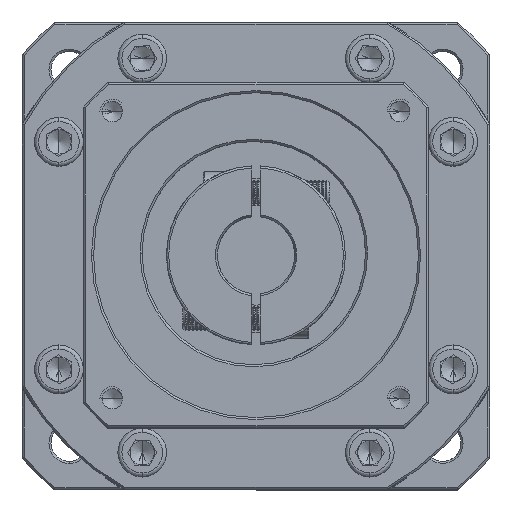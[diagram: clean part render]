
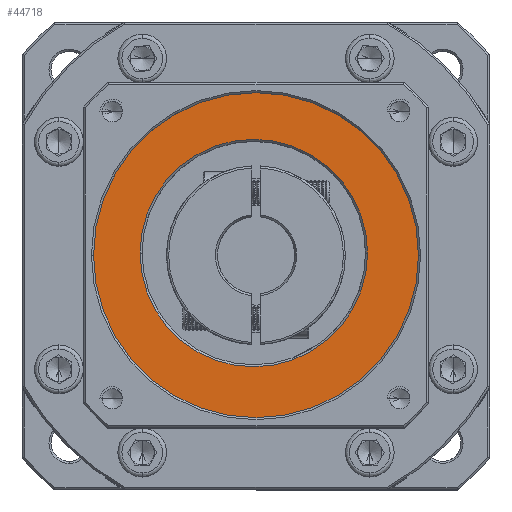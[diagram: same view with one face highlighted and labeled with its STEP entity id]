
A CAD part, top view. The second image highlights one B-rep face of the part: STEP entity #44718.
In plain terms, the highlighted planar face has unit normal (0, 0, 1).
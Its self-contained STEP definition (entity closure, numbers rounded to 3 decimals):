
#2791 = CARTESIAN_POINT ( 'NONE',  ( -84.567, 38.142, 25.809 ) ) ;
#4740 = PLANE ( 'NONE',  #44044 ) ;
#6431 = EDGE_CURVE ( 'NONE', #20829, #110707, #108362, .T. ) ;
#8061 = CARTESIAN_POINT ( 'NONE',  ( -56.567, 38.142, 25.809 ) ) ;
#10621 = ORIENTED_EDGE ( 'NONE', *, *, #6431, .T. ) ;
#10857 = CARTESIAN_POINT ( 'NONE',  ( -84.026, 37.608, 25.809 ) ) ;
#10901 = CARTESIAN_POINT ( 'NONE',  ( -112.567, 38.142, 25.809 ) ) ;
#11102 = EDGE_LOOP ( 'NONE', ( #54437, #51127 ) ) ;
#11721 = DIRECTION ( 'NONE',  ( 1., 0., 0. ) ) ;
#12253 = VERTEX_POINT ( 'NONE', #50307 ) ;
#13735 = AXIS2_PLACEMENT_3D ( 'NONE', #83500, #30104, #92414 ) ;
#19850 = DIRECTION ( 'NONE',  ( 1., 0., 0. ) ) ;
#20007 = VERTEX_POINT ( 'NONE', #75789 ) ;
#20829 = VERTEX_POINT ( 'NONE', #10901 ) ;
#25550 = EDGE_CURVE ( 'NONE', #12253, #20007, #48834, .T. ) ;
#30104 = DIRECTION ( 'NONE',  ( 0., 0., 1. ) ) ;
#30337 = FACE_BOUND ( 'NONE', #98757, .T. ) ;
#44044 = AXIS2_PLACEMENT_3D ( 'NONE', #49878, #112316, #58861 ) ;
#44718 = ADVANCED_FACE ( 'NONE', ( #54089, #30337 ), #4740, .T. ) ;
#48834 = CIRCLE ( 'NONE', #13735, 40. ) ;
#49164 = DIRECTION ( 'NONE',  ( 0., 0., -1. ) ) ;
#49878 = CARTESIAN_POINT ( 'NONE',  ( -84.026, 37.608, 25.809 ) ) ;
#50307 = CARTESIAN_POINT ( 'NONE',  ( -44.026, 37.608, 25.809 ) ) ;
#51127 = ORIENTED_EDGE ( 'NONE', *, *, #79446, .T. ) ;
#54089 = FACE_OUTER_BOUND ( 'NONE', #11102, .T. ) ;
#54437 = ORIENTED_EDGE ( 'NONE', *, *, #25550, .T. ) ;
#55616 = EDGE_CURVE ( 'NONE', #110707, #20829, #100958, .T. ) ;
#58861 = DIRECTION ( 'NONE',  ( 1., 0., 0. ) ) ;
#65160 = DIRECTION ( 'NONE',  ( 0., 0., -1. ) ) ;
#71970 = AXIS2_PLACEMENT_3D ( 'NONE', #2791, #65160, #11721 ) ;
#73234 = DIRECTION ( 'NONE',  ( 0., 0., 1. ) ) ;
#75789 = CARTESIAN_POINT ( 'NONE',  ( -124.026, 37.608, 25.809 ) ) ;
#79446 = EDGE_CURVE ( 'NONE', #20007, #12253, #115616, .T. ) ;
#83500 = CARTESIAN_POINT ( 'NONE',  ( -84.026, 37.608, 25.809 ) ) ;
#85424 = AXIS2_PLACEMENT_3D ( 'NONE', #102563, #49164, #111574 ) ;
#87765 = AXIS2_PLACEMENT_3D ( 'NONE', #10857, #73234, #19850 ) ;
#92414 = DIRECTION ( 'NONE',  ( 1., 0., 0. ) ) ;
#98757 = EDGE_LOOP ( 'NONE', ( #104018, #10621 ) ) ;
#100958 = CIRCLE ( 'NONE', #71970, 28. ) ;
#102563 = CARTESIAN_POINT ( 'NONE',  ( -84.567, 38.142, 25.809 ) ) ;
#104018 = ORIENTED_EDGE ( 'NONE', *, *, #55616, .T. ) ;
#108362 = CIRCLE ( 'NONE', #85424, 28. ) ;
#110707 = VERTEX_POINT ( 'NONE', #8061 ) ;
#111574 = DIRECTION ( 'NONE',  ( 1., 0., 0. ) ) ;
#112316 = DIRECTION ( 'NONE',  ( 0., 0., 1. ) ) ;
#115616 = CIRCLE ( 'NONE', #87765, 40. ) ;
